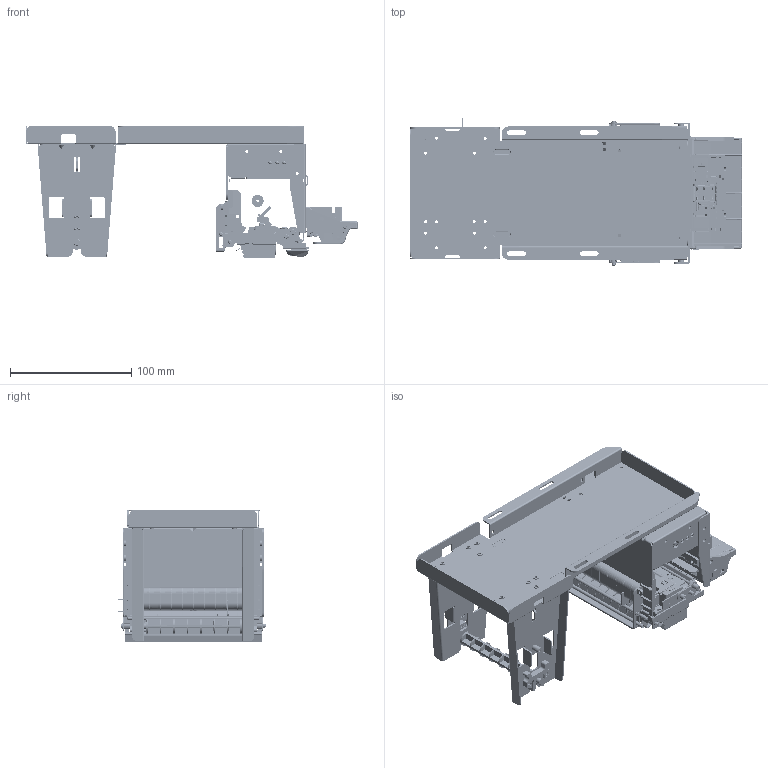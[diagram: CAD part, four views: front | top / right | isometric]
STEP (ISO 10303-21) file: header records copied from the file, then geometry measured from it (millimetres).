
FILE_DESCRIPTION((''),'2;1');
FILE_NAME('EU804-ZONGZHUANGTU_ASM_ASM','2020-08-03T',('xyq'),(''),'CREO PARAMETRIC BY PTC INC, 2015290','CREO PARAMETRIC BY PTC INC, 2015290','');
FILE_SCHEMA(('CONFIG_CONTROL_DESIGN'));
Products named in the file (1): EU804-ZONGZHUANGTU_ASM_ASM
Bounding box: 274.25 x 122.05 x 109.26 mm (x, y, z)
Volume: 140620.7 mm3; surface area: 371651.7 mm2
Topology: 28 solids, 129 shells, 14383 faces, 42498 edges, 27532 vertices
Faces by surface type: plane 9496, cylinder 3308, bspline 761, torus 413, cone 261, extrusion 73, sphere 67, revolution 4
Entity records: 534675 total; most frequent: CARTESIAN_POINT 162833, ORIENTED_EDGE 79623, DIRECTION 70221, EDGE_CURVE 42432, VECTOR 30415, LINE 30342, VERTEX_POINT 27531, AXIS2_PLACEMENT_3D 19901
